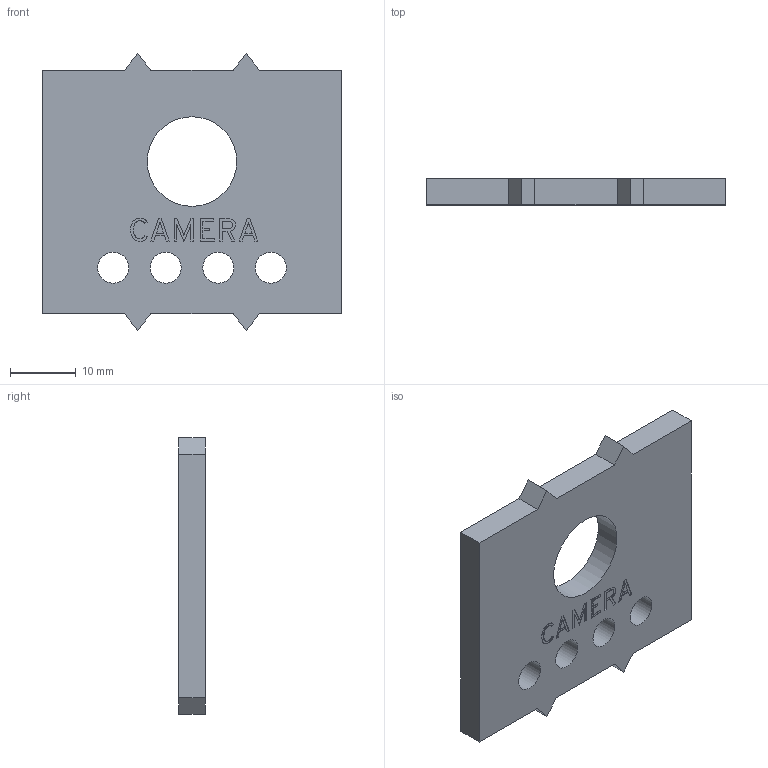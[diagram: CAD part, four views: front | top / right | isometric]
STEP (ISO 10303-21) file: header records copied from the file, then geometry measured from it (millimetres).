
FILE_DESCRIPTION(('FreeCAD Model'),'2;1');
FILE_NAME('Open CASCADE Shape Model','2024-06-26T11:40:23',('FreeCAD'),( 'FreeCAD'),'Open CASCADE STEP processor 7.6','FreeCAD','Unknown');
FILE_SCHEMA(('AUTOMOTIVE_DESIGN { 1 0 10303 214 1 1 1 1 }'));
Length unit declared in the file: millimetre
Products named in the file (1): Open CASCADE STEP translator 7.6 4
Bounding box: 45.5 x 4 x 42 mm (x, y, z)
Volume: 5953.2 mm3; surface area: 4093.9 mm2
Topology: 1 solids, 1 shells, 154 faces, 429 edges, 286 vertices
Faces by surface type: plane 86, extrusion 63, cylinder 5
Full cylindrical faces by diameter (mm): 4.7 x4, 13.6 x1
Entity records: 4999 total; most frequent: CARTESIAN_POINT 1248, ORIENTED_EDGE 858, DIRECTION 560, EDGE_CURVE 429, VECTOR 356, LINE 293, VERTEX_POINT 286, B_SPLINE_CURVE_WITH_KNOTS 189
